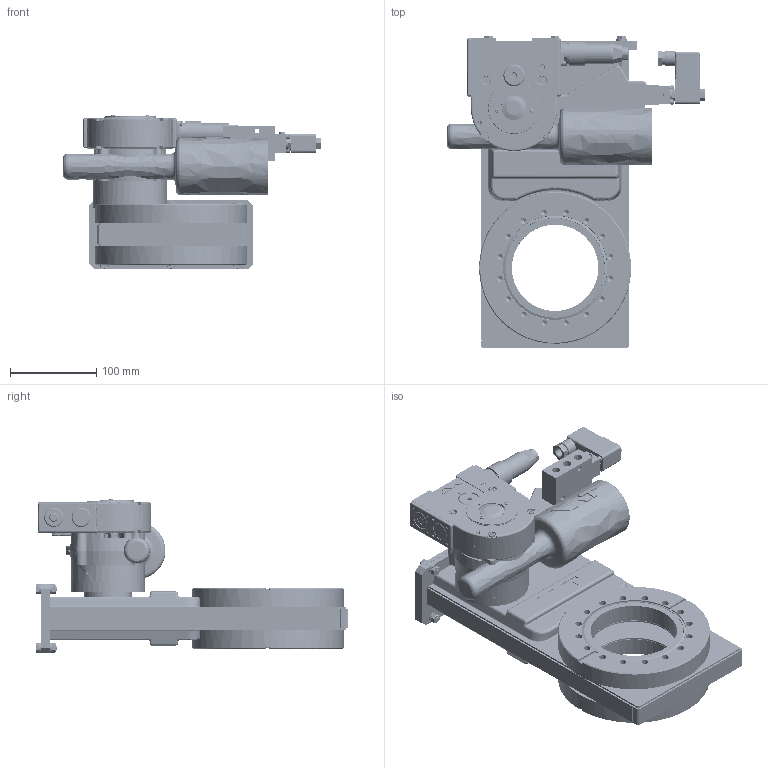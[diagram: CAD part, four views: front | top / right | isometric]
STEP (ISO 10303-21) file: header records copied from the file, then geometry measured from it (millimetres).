
FILE_DESCRIPTION((''),'2;1');
FILE_NAME('O:\MT\MT\Systeme\Cad\Datenexporte\www_vat_ch\212716.stp','2005-07-28T14:59:13',('User'),('SDRC'),'I-DEAS Master Series 9','UNIX','Yes');
FILE_SCHEMA(('CONFIG_CONTROL_DESIGN'));
Length unit declared in the file: millimetre
Assembly tree (91 placements, depth 0):
Bounding box: 298.2 x 361.6 x 178.45 mm (x, y, z)
Volume: 2013541.4 mm3; surface area: 810464.6 mm2
Topology: 116 solids, 116 shells, 3593 faces, 8519 edges, 5438 vertices
Faces by surface type: bspline 3593
Entity records: 91632 total; most frequent: CARTESIAN_POINT 46954, ORIENTED_EDGE 12568, EDGE_CURVE 6284, VERTEX_POINT 4048, EDGE_LOOP 2996, FACE_OUTER_BOUND 2583, ADVANCED_FACE 2583, QUASI_UNIFORM_CURVE 2422
